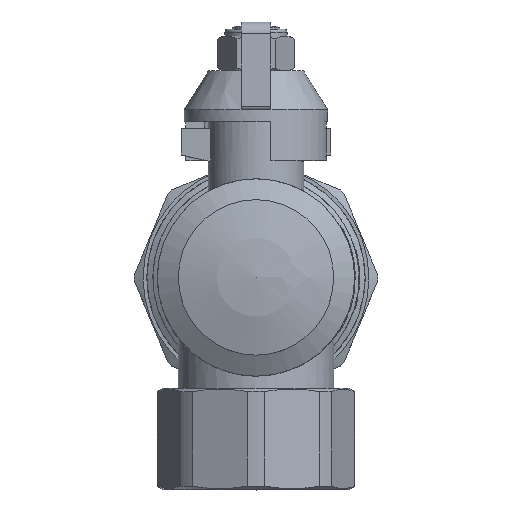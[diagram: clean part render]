
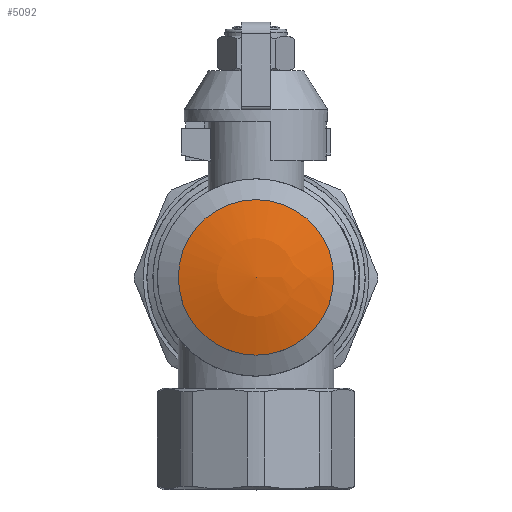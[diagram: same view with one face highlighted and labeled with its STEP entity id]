
A CAD part, top view. The second image highlights one B-rep face of the part: STEP entity #5092.
In plain terms, the highlighted spherical face has radius 43.25 mm.
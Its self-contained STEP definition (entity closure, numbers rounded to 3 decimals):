
#15=SPHERICAL_SURFACE('',#5500,43.25);
#436=CIRCLE('',#5499,13.);
#791=FACE_OUTER_BOUND('',#1131,.T.);
#1131=EDGE_LOOP('',(#4670));
#2491=VERTEX_POINT('',#15903);
#3232=EDGE_CURVE('',#2491,#2491,#436,.T.);
#4670=ORIENTED_EDGE('',*,*,#3232,.T.);
#5092=ADVANCED_FACE('',(#791),#15,.T.);
#5499=AXIS2_PLACEMENT_3D('',#15904,#6608,#6609);
#5500=AXIS2_PLACEMENT_3D('',#15905,#6610,#6611);
#6608=DIRECTION('center_axis',(0.,0.,1.));
#6609=DIRECTION('ref_axis',(1.,0.,0.));
#6610=DIRECTION('center_axis',(0.,0.,1.));
#6611=DIRECTION('ref_axis',(1.,0.,0.));
#15903=CARTESIAN_POINT('',(0.,-13.,19.521));
#15904=CARTESIAN_POINT('Origin',(0.,0.,19.521));
#15905=CARTESIAN_POINT('Origin',(0.,0.,-21.729));
